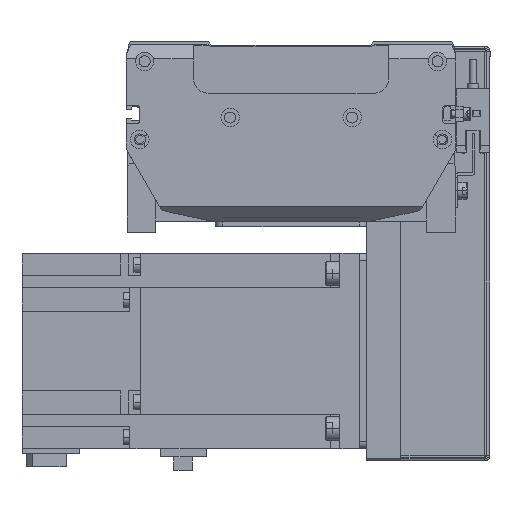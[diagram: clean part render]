
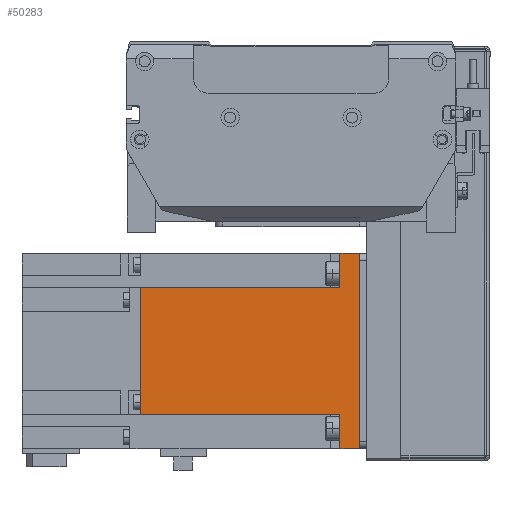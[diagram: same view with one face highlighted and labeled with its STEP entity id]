
A CAD part, front view. The second image highlights one B-rep face of the part: STEP entity #50283.
In plain terms, the highlighted planar face has unit normal (0, -1, 0) as drawn and (0, 0, -1) by its records, which use the part's own axes.
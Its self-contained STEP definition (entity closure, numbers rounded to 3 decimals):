
#571 = VERTEX_POINT ( 'NONE', #49128 ) ;
#1362 = CARTESIAN_POINT ( 'NONE',  ( 40., 0., -40. ) ) ;
#1813 = CARTESIAN_POINT ( 'NONE',  ( -25.95, 89.8, -40. ) ) ;
#2132 = CARTESIAN_POINT ( 'NONE',  ( 25.95, 8., -40. ) ) ;
#2881 = EDGE_CURVE ( 'NONE', #9725, #571, #33466, .T. ) ;
#3436 = DIRECTION ( 'NONE',  ( 0., 1., 0. ) ) ;
#6323 = DIRECTION ( 'NONE',  ( 0., -1., 0. ) ) ;
#6438 = LINE ( 'NONE', #17530, #25134 ) ;
#7681 = DIRECTION ( 'NONE',  ( -1., 0., 0. ) ) ;
#7688 = CARTESIAN_POINT ( 'NONE',  ( 40., 89.8, -40. ) ) ;
#7859 = DIRECTION ( 'NONE',  ( 1., 0., 0. ) ) ;
#7904 = CARTESIAN_POINT ( 'NONE',  ( 40., 8., -40. ) ) ;
#8435 = VECTOR ( 'NONE', #28106, 1000. ) ;
#9605 = LINE ( 'NONE', #24244, #8435 ) ;
#9725 = VERTEX_POINT ( 'NONE', #1362 ) ;
#9798 = DIRECTION ( 'NONE',  ( 0., 1., 0. ) ) ;
#10403 = LINE ( 'NONE', #23357, #19744 ) ;
#11628 = LINE ( 'NONE', #46512, #39650 ) ;
#13179 = ORIENTED_EDGE ( 'NONE', *, *, #49948, .F. ) ;
#13573 = AXIS2_PLACEMENT_3D ( 'NONE', #7688, #43578, #7859 ) ;
#13864 = EDGE_LOOP ( 'NONE', ( #14073, #39593, #24383, #50078, #34563, #13179, #15115, #38223 ) ) ;
#14073 = ORIENTED_EDGE ( 'NONE', *, *, #30060, .F. ) ;
#15115 = ORIENTED_EDGE ( 'NONE', *, *, #37290, .F. ) ;
#16024 = VECTOR ( 'NONE', #16441, 1000. ) ;
#16441 = DIRECTION ( 'NONE',  ( -1., 0., 0. ) ) ;
#16486 = EDGE_CURVE ( 'NONE', #37120, #36590, #50435, .T. ) ;
#16888 = VERTEX_POINT ( 'NONE', #7904 ) ;
#17530 = CARTESIAN_POINT ( 'NONE',  ( 40., 89.8, -40. ) ) ;
#17700 = CARTESIAN_POINT ( 'NONE',  ( -40., 8., -40. ) ) ;
#18415 = EDGE_CURVE ( 'NONE', #571, #38238, #11628, .T. ) ;
#19744 = VECTOR ( 'NONE', #7681, 1000. ) ;
#23176 = VECTOR ( 'NONE', #29907, 1000. ) ;
#23357 = CARTESIAN_POINT ( 'NONE',  ( 40., 89.8, -40. ) ) ;
#23563 = PLANE ( 'NONE',  #13573 ) ;
#24103 = EDGE_CURVE ( 'NONE', #9725, #16888, #6438, .T. ) ;
#24178 = VECTOR ( 'NONE', #6323, 1000. ) ;
#24222 = VECTOR ( 'NONE', #3436, 1000. ) ;
#24244 = CARTESIAN_POINT ( 'NONE',  ( 40., 8., -40. ) ) ;
#24383 = ORIENTED_EDGE ( 'NONE', *, *, #2881, .T. ) ;
#25134 = VECTOR ( 'NONE', #9798, 1000. ) ;
#26638 = FACE_OUTER_BOUND ( 'NONE', #13864, .T. ) ;
#27494 = CARTESIAN_POINT ( 'NONE',  ( 25.95, 89.8, -40. ) ) ;
#28106 = DIRECTION ( 'NONE',  ( -1., 0., 0. ) ) ;
#29907 = DIRECTION ( 'NONE',  ( -1., 0., 0. ) ) ;
#30060 = EDGE_CURVE ( 'NONE', #16888, #37120, #9605, .T. ) ;
#33466 = LINE ( 'NONE', #47453, #16024 ) ;
#34381 = DIRECTION ( 'NONE',  ( 0., 1., 0. ) ) ;
#34466 = CARTESIAN_POINT ( 'NONE',  ( -25.95, 89.8, -40. ) ) ;
#34563 = ORIENTED_EDGE ( 'NONE', *, *, #44016, .F. ) ;
#35097 = VERTEX_POINT ( 'NONE', #34466 ) ;
#36590 = VERTEX_POINT ( 'NONE', #50104 ) ;
#37120 = VERTEX_POINT ( 'NONE', #2132 ) ;
#37290 = EDGE_CURVE ( 'NONE', #36590, #35097, #10403, .T. ) ;
#37522 = LINE ( 'NONE', #37569, #23176 ) ;
#37569 = CARTESIAN_POINT ( 'NONE',  ( 40., 8., -40. ) ) ;
#38223 = ORIENTED_EDGE ( 'NONE', *, *, #16486, .F. ) ;
#38238 = VERTEX_POINT ( 'NONE', #17700 ) ;
#39593 = ORIENTED_EDGE ( 'NONE', *, *, #24103, .F. ) ;
#39650 = VECTOR ( 'NONE', #34381, 1000. ) ;
#43578 = DIRECTION ( 'NONE',  ( 0., 0., 1. ) ) ;
#44016 = EDGE_CURVE ( 'NONE', #47108, #38238, #37522, .T. ) ;
#46358 = CARTESIAN_POINT ( 'NONE',  ( -25.95, 8., -40. ) ) ;
#46512 = CARTESIAN_POINT ( 'NONE',  ( -40., 89.8, -40. ) ) ;
#47108 = VERTEX_POINT ( 'NONE', #46358 ) ;
#47453 = CARTESIAN_POINT ( 'NONE',  ( 0., 0., -40. ) ) ;
#49128 = CARTESIAN_POINT ( 'NONE',  ( -40., 0., -40. ) ) ;
#49948 = EDGE_CURVE ( 'NONE', #35097, #47108, #50985, .T. ) ;
#50078 = ORIENTED_EDGE ( 'NONE', *, *, #18415, .T. ) ;
#50104 = CARTESIAN_POINT ( 'NONE',  ( 25.95, 89.8, -40. ) ) ;
#50283 = ADVANCED_FACE ( 'NONE', ( #26638 ), #23563, .F. ) ;
#50435 = LINE ( 'NONE', #27494, #24222 ) ;
#50985 = LINE ( 'NONE', #1813, #24178 ) ;
